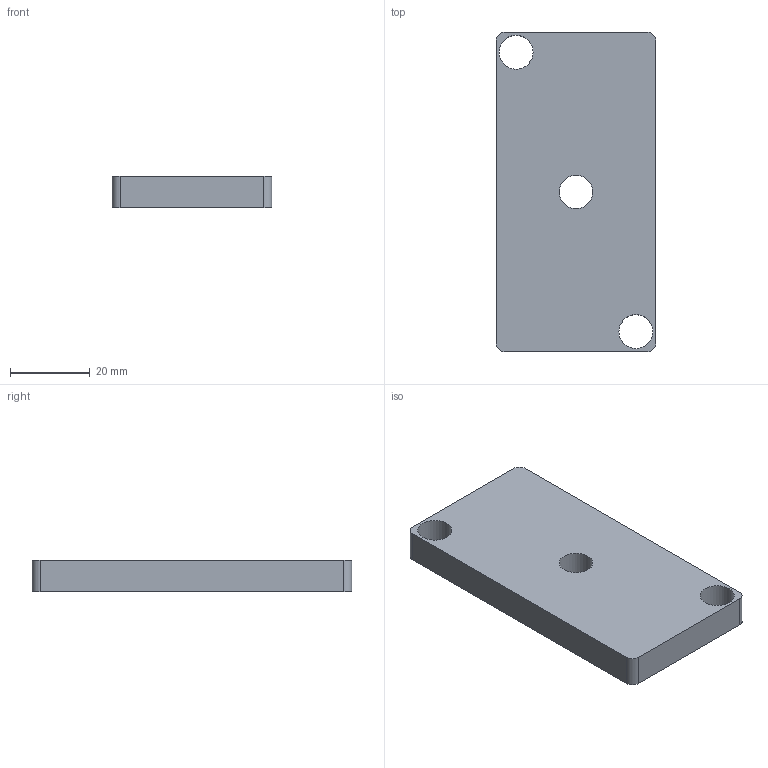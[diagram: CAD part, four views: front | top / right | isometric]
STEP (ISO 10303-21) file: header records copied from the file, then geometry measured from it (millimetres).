
FILE_DESCRIPTION(/* description */ ('ENDPLATE FOR FOOT M10, PROFILE 40x80'),/* implementation_level */ '2;1');
FILE_NAME(/* name */ '\\carryline.intra\privat\users\mathias\Desktop\Tillfälliga filer\100-1182.stp',/* time_stamp */ '2018-11-19T11:07:58+01:00',/* author */ ('ML'),/* organization */ ('CARRYLINE'),/* preprocessor_version */ 'ST-DEVELOPER v17',/* originating_system */ 'Autodesk Inventor 2018',/* authorisation */ '');
FILE_SCHEMA (('AUTOMOTIVE_DESIGN { 1 0 10303 214 3 1 1 }'));
Length unit declared in the file: millimetre
Products named in the file (1): 100-1182
Bounding box: 40 x 80 x 8 mm (x, y, z)
Volume: 24223.8 mm3; surface area: 8586.2 mm2
Topology: 1 solids, 1 shells, 13 faces, 36 edges, 25 vertices
Faces by surface type: cylinder 7, plane 6
Full cylindrical faces by diameter (mm): 8.376 x1, 8.5 x2
Entity records: 482 total; most frequent: DIRECTION 81, CARTESIAN_POINT 75, ORIENTED_EDGE 72, EDGE_CURVE 36, AXIS2_PLACEMENT_3D 31, VERTEX_POINT 25, EDGE_LOOP 19, LINE 19
